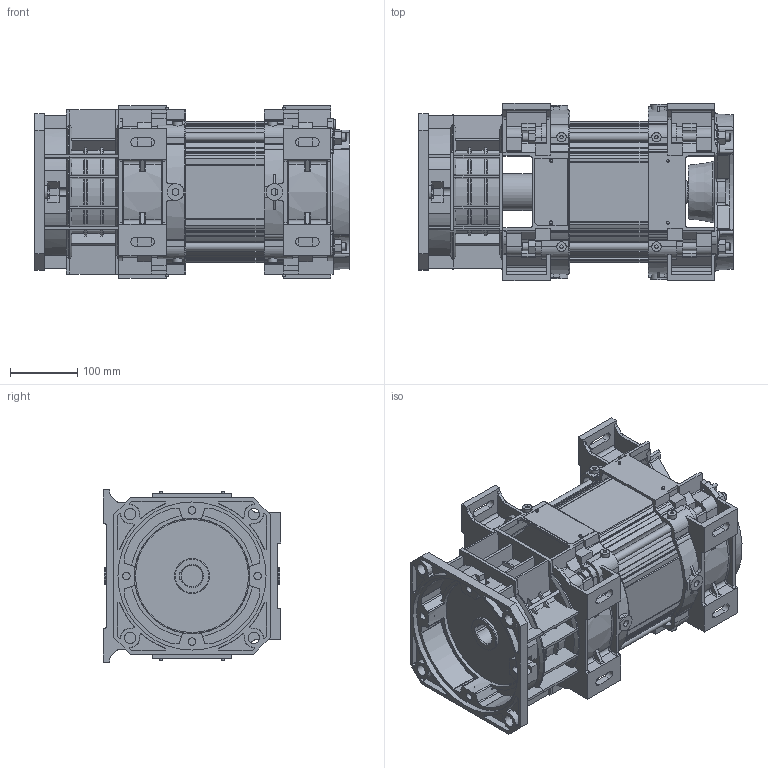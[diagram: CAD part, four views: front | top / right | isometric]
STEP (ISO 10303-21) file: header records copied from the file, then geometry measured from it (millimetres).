
FILE_DESCRIPTION(/* description */ ('Motore Tipo S76 Fl.220 F32-H160 SI Volano D168 NO Piedi'),/* implementation_level */ '2;1');
FILE_NAME(/* name */ 'Y:\ServerTecnico\Mockup Motori x Sito Elmo\Mockup Tipo V76 Size 2 FL220 F32-H160 SI Volano D168 NO Piedi.stp',/* time_stamp */ '2016-11-04T11:53:17+01:00',/* author */ ('aparmini'),/* organization */ (''),/* preprocessor_version */ 'ST-DEVELOPER v16.5',/* originating_system */ 'Autodesk Inventor 2017',/* authorisation */ '');
FILE_SCHEMA (('AUTOMOTIVE_DESIGN { 1 0 10303 214 3 1 1 }'));
Products named in the file (11): Mockup Tipo V76 Size 2 FL220 F32-H160 SI Volano D168 NO Piedi; Mockup Statore Size 2 - F32-H1600 SI Volano D168; TGS10; CA2FD220N; CsperimParma Nuovo CRUC  14-02-05; Ca sperimSenza Volano Nuovo; CAV2 DISTANZIALE; Mockup CP2X062N; DIN 125-2 - B 13; TI12ML310; UNI 5588 - M12
Assembly tree (23 placements, depth 3):
  Mockup Tipo V76 Size 2 FL220 F32-H160 SI Volano D168 NO Piedi
    Mockup Statore Size 2 - F32-H1600 SI Volano D168
    TGS10
    CA2FD220N
      CsperimParma Nuovo CRUC  14-02-05
      Ca sperimSenza Volano Nuovo
      CAV2 DISTANZIALE
    Mockup CP2X062N
    UNI 5588 - M12  x8
    DIN 125-2 - B 13  x4
    TI12ML310  x4
Bounding box: 467 x 264 x 256 mm (x, y, z)
Volume: 10899556 mm3; surface area: 1463967.8 mm2
Topology: 25 solids, 25 shells, 2445 faces, 6791 edges, 4403 vertices
Faces by surface type: plane 1027, cylinder 781, cone 439, torus 102, bspline 80, sphere 16
Full cylindrical faces by diameter (mm): 4 x8, 5 x10, 8 x2, 10 x4, 10.106 x8, 11 x4, 12 x4, 13 x8, 14 x10, 17 x4, 24 x4, 25 x5, 30 x1, 32 x1, 52 x2, 55 x1, 62 x3, 65 x1, 67.5 x1, 168 x1, 220 x1
Entity records: 76333 total; most frequent: CARTESIAN_POINT 17268, DIRECTION 12518, ORIENTED_EDGE 12514, EDGE_CURVE 6257, AXIS2_PLACEMENT_3D 4646, VERTEX_POINT 4137, LINE 3226, VECTOR 3226
